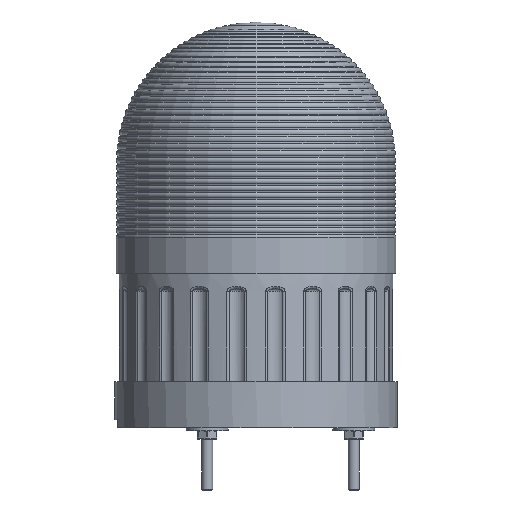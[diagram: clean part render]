
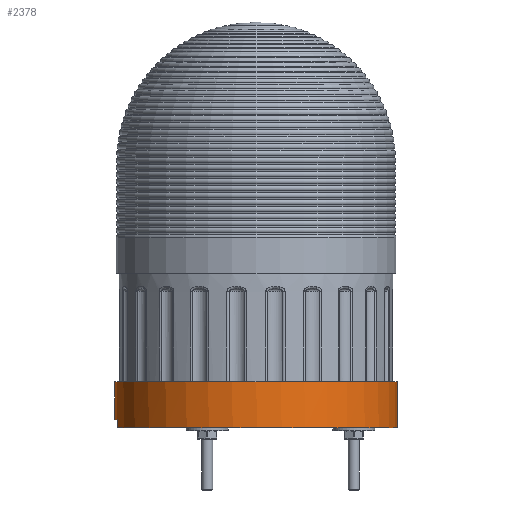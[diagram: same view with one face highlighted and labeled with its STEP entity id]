
A CAD part, front view. The second image highlights one B-rep face of the part: STEP entity #2378.
In plain terms, the highlighted cylindrical face has radius 50.5 mm (diameter 101 mm), a full revolution.
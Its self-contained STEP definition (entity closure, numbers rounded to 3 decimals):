
#2378=ADVANCED_FACE('',(#23606,#23608),#23610,.T.);
#23606=FACE_BOUND('',#23607,.T.);
#23607=EDGE_LOOP('',(#37073,#37074,#37075,#37076,#37077));
#23608=FACE_OUTER_BOUND('',#23609,.T.);
#23609=EDGE_LOOP('',(#37078));
#23610=CYLINDRICAL_SURFACE('',#23611,50.5);
#23611=AXIS2_PLACEMENT_3D('',#23612,#23613,#23614);
#23612=CARTESIAN_POINT('',(0.,0.,16.6));
#23613=DIRECTION('',(0.,0.,-1.));
#23614=DIRECTION('',(-1.,0.,0.));
#37073=ORIENTED_EDGE('',*,*,#41816,.T.);
#37074=ORIENTED_EDGE('',*,*,#41817,.F.);
#37075=ORIENTED_EDGE('',*,*,#41818,.F.);
#37076=ORIENTED_EDGE('',*,*,#41819,.T.);
#37077=ORIENTED_EDGE('',*,*,#41820,.T.);
#37078=ORIENTED_EDGE('',*,*,#41821,.T.);
#41816=EDGE_CURVE('',#44817,#44818,#44819,.T.);
#41817=EDGE_CURVE('',#44820,#44818,#44821,.T.);
#41818=EDGE_CURVE('',#44822,#44820,#44823,.T.);
#41819=EDGE_CURVE('',#44822,#44824,#44825,.F.);
#41820=EDGE_CURVE('',#44824,#44817,#44826,.F.);
#41821=EDGE_CURVE('',#44827,#44827,#44828,.T.);
#44817=VERTEX_POINT('',#55229);
#44818=VERTEX_POINT('',#55230);
#44819=LINE('',#55231,#55232);
#44820=VERTEX_POINT('',#55234);
#44821=CIRCLE('',#55235,50.5);
#44822=VERTEX_POINT('',#55239);
#44823=CIRCLE('',#55240,50.5);
#44824=VERTEX_POINT('',#55244);
#44825=LINE('',#55245,#55246);
#44826=CIRCLE('',#55248,50.5);
#44827=VERTEX_POINT('',#55252);
#44828=CIRCLE('',#55253,50.5);
#55229=CARTESIAN_POINT('',(9.437,-49.61,3.));
#55230=CARTESIAN_POINT('',(9.437,-49.61,0.));
#55231=CARTESIAN_POINT('',(9.437,-49.61,3.));
#55232=VECTOR('',#55233,1.);
#55233=DIRECTION('',(0.,0.,-1.));
#55234=CARTESIAN_POINT('',(-50.5,0.,0.));
#55235=AXIS2_PLACEMENT_3D('',#55236,#55237,#55238);
#55236=CARTESIAN_POINT('',(0.,0.,0.));
#55237=DIRECTION('',(0.,0.,-1.));
#55238=DIRECTION('',(-1.,0.,0.));
#55239=CARTESIAN_POINT('',(-31.3,-39.63,0.));
#55240=AXIS2_PLACEMENT_3D('',#55241,#55242,#55243);
#55241=CARTESIAN_POINT('',(0.,0.,0.));
#55242=DIRECTION('',(0.,0.,-1.));
#55243=DIRECTION('',(-0.62,-0.785,0.));
#55244=CARTESIAN_POINT('',(-31.3,-39.63,3.));
#55245=CARTESIAN_POINT('',(-31.3,-39.63,3.));
#55246=VECTOR('',#55247,1.);
#55247=DIRECTION('',(0.,0.,-1.));
#55248=AXIS2_PLACEMENT_3D('',#55249,#55250,#55251);
#55249=CARTESIAN_POINT('',(0.,0.,3.));
#55250=DIRECTION('',(0.,0.,-1.));
#55251=DIRECTION('',(0.187,-0.982,0.));
#55252=CARTESIAN_POINT('',(-50.5,0.,16.6));
#55253=AXIS2_PLACEMENT_3D('',#55254,#55255,#55256);
#55254=CARTESIAN_POINT('',(0.,0.,16.6));
#55255=DIRECTION('',(0.,0.,-1.));
#55256=DIRECTION('',(-1.,0.,0.));
